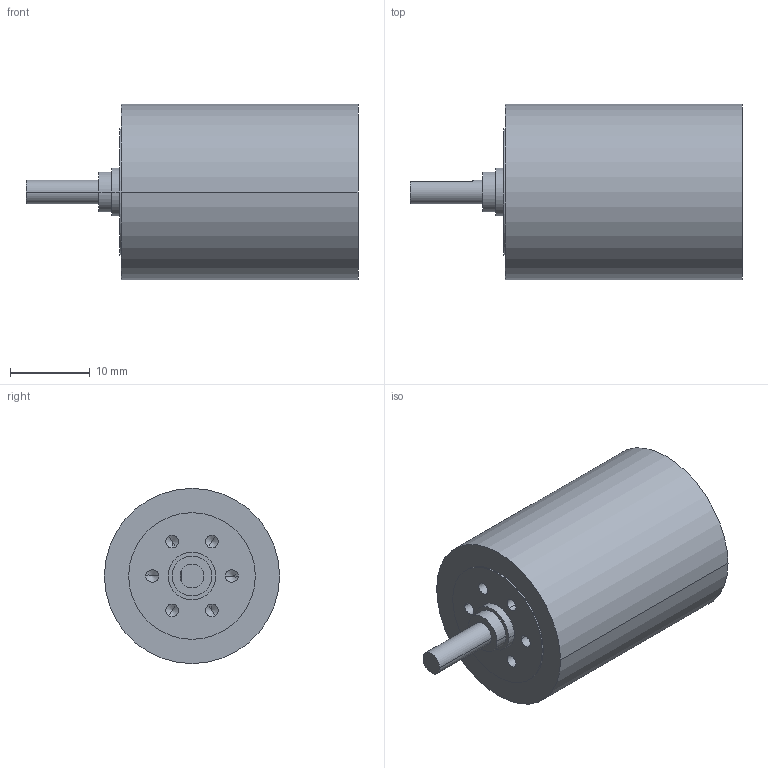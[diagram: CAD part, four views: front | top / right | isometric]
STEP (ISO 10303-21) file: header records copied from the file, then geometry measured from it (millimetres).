
FILE_DESCRIPTION((''),'2;1');
FILE_NAME('1118186','2010-02-04T',('MMAGMIBU'),(''),'PRO/ENGINEER BY PARAMETRIC TECHNOLOGY CORPORATION, 2009230','PRO/ENGINEER BY PARAMETRIC TECHNOLOGY CORPORATION, 2009230','');
FILE_SCHEMA(('CONFIG_CONTROL_DESIGN'));
Length unit declared in the file: millimetre
Products named in the file (1): 1118186
Bounding box: 41.7 x 22 x 22 mm (x, y, z)
Volume: 10671.8 mm3; surface area: 3204.7 mm2
Topology: 1 solids, 1 shells, 45 faces, 102 edges, 58 vertices
Faces by surface type: cylinder 24, cone 12, plane 9
Entity records: 1223 total; most frequent: DIRECTION 226, CARTESIAN_POINT 198, ORIENTED_EDGE 180, AXIS2_PLACEMENT_3D 93, EDGE_CURVE 90, VERTEX_POINT 58, EDGE_LOOP 56, CIRCLE 48
